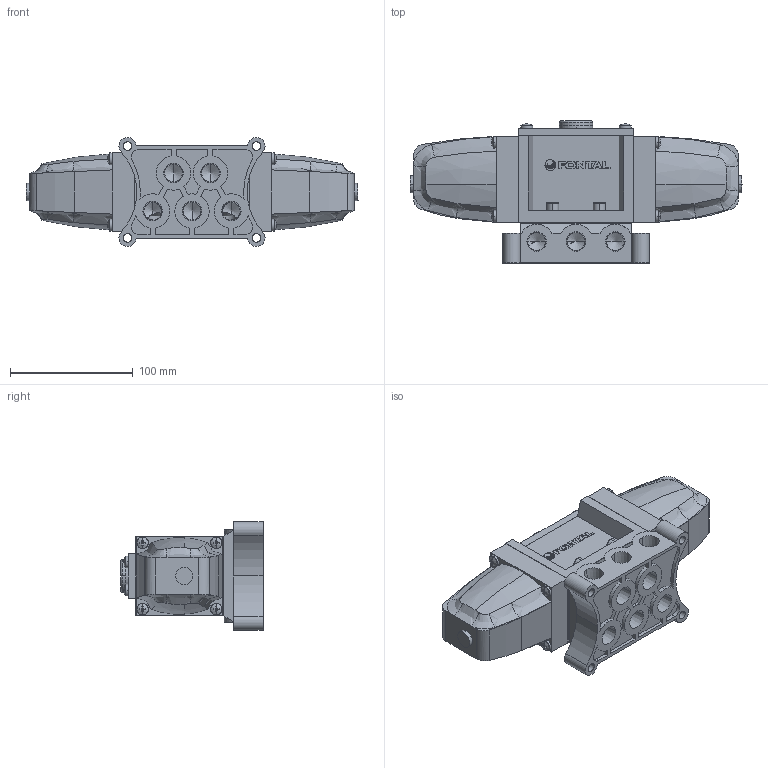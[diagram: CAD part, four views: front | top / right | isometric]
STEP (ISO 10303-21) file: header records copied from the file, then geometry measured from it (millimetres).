
FILE_DESCRIPTION (( 'STEP AP203' ), '1' );
FILE_NAME ('AD2410-03-##.STEP', '2016-03-09T03:10:47', ( 'Sam Lin' ), ( '' ), 'SwSTEP 2.0', 'SolidWorks 2013', '' );
FILE_SCHEMA (( 'CONFIG_CONTROL_DESIGN' ));
Length unit declared in the file: metre
Products named in the file (10): ISO 7045 - M5 x 16; AS2410-3; AS2410-4; ISO 4762 M6 x 16; AS2410-5; AS2410-6; AS2410-1; AD2410-03-##; A10-MARK; AS2310-3
Assembly tree (24 placements, depth 2):
  AD2410-03-##
    AS2410-1
    A10-MARK
    AS2310-3  x2
    ISO 7045 - M5 x 16  x12
    AS2410-3
    AS2410-4
    ISO 4762 M6 x 16  x4
    AS2410-5
    AS2410-6
Bounding box: 270 x 115.6 x 88.6 mm (x, y, z)
Volume: 1072843.8 mm3; surface area: 162653.8 mm2
Topology: 30 solids, 30 shells, 933 faces, 2340 edges, 1467 vertices
Faces by surface type: plane 457, cylinder 218, bspline 130, cone 128
Entity records: 16765 total; most frequent: CARTESIAN_POINT 4899, ORIENTED_EDGE 2162, DIRECTION 2150, EDGE_CURVE 1081, AXIS2_PLACEMENT_3D 781, VERTEX_POINT 707, VECTOR 588, LINE 588
